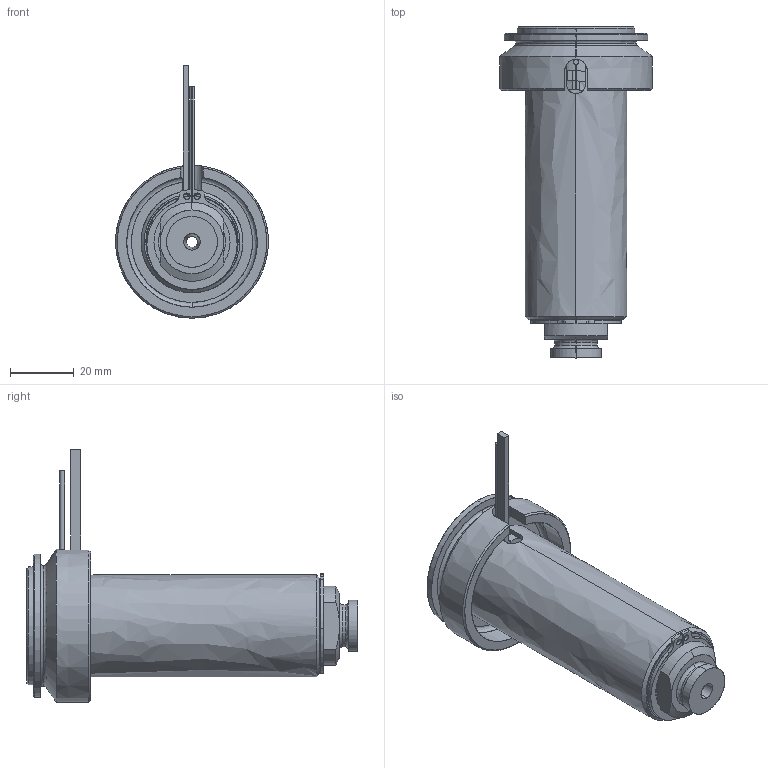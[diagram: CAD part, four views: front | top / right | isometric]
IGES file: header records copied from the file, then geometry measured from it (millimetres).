
Start section: SolidWorks IGES file using analytic representation for surfaces
Global section: file name: C:\Documents and Settings\ws-20\Desktop\TEMPORANEA\UGBE5002-M-A-5 [Ød-3.5 P-0 ØC-12].IGS; native system: SolidWorks 2012; preprocessor: SolidWorks 2012; author: ws-20; date: 120306.145058; units: millimetre
Bounding box: 48 x 104.25 x 79.3 mm (x, y, z)
Surface area: 39435.7 mm2 (no closed solid volume)
Topology: 0 solids, 0 shells, 109 faces, 2046 edges, 2046 vertices
Faces by surface type: revolution 61, bspline 48
